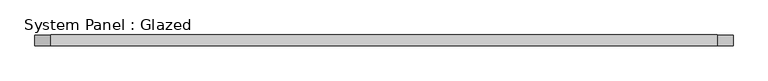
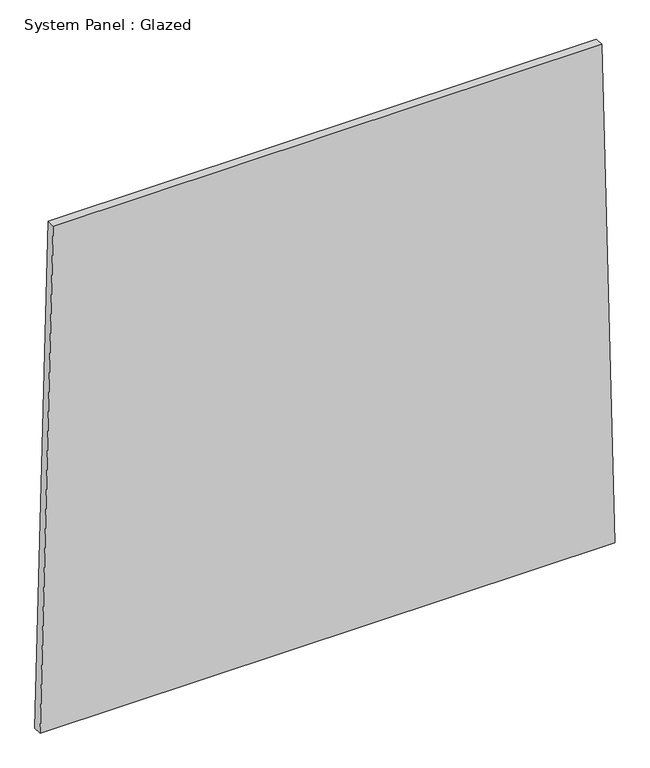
"""IFC4 building model written with IfcOpenShell, lengths in millimetres: plate geometry, System Panel : Glazed."""

from ifc_helpers import new_model, si_unit, frame, origin, place, context, project, spatial, polyline, outline, extrude, source, transform, mapped, element, save


def system_panel_glazed_be26d2f9(model_context):
    return source(origin(), model_context, "Body", "SweptSolid", [
        extrude(outline(polyline([(0.0, -811.5642807), (0.0, 811.5642807), (1499.5427494, 774.5299259), (1499.5427494, -774.5299366), (0.0, -811.5642807)])), frame((0.0, -49.5, 0.0), z_axis=(0.0, 1.0, 0.0), x_axis=(0.0, 0.0, 1.0)), (0.0, 0.0, 1.0), 25.0),
    ])


if __name__ == "__main__":
    model = new_model("IFC4")
    model_context = context("Model", 3, world=origin())
    ifc_project = project(units=[si_unit("LENGTHUNIT", "METRE", prefix="MILLI")], contexts=[model_context])
    site = spatial("IfcSite", under=ifc_project)
    building = spatial("IfcBuilding", under=site)
    placement = place(None, origin())
    system_panel_glazed_shape = system_panel_glazed_be26d2f9(model_context)
    element("IfcPlate", 1, ObjectType="System Panel : Glazed", at=placement, inside=building, context=model_context, shape_type="MappedRepresentation", body=[
        mapped(system_panel_glazed_shape, transform((0.0, 0.0, 0.0), x_axis=(1.0, 0.0, 0.0), y_axis=(0.0, 1.0, 0.0), z_axis=(0.0, 0.0, 1.0))),
    ])
    save(model, "model.ifc")
